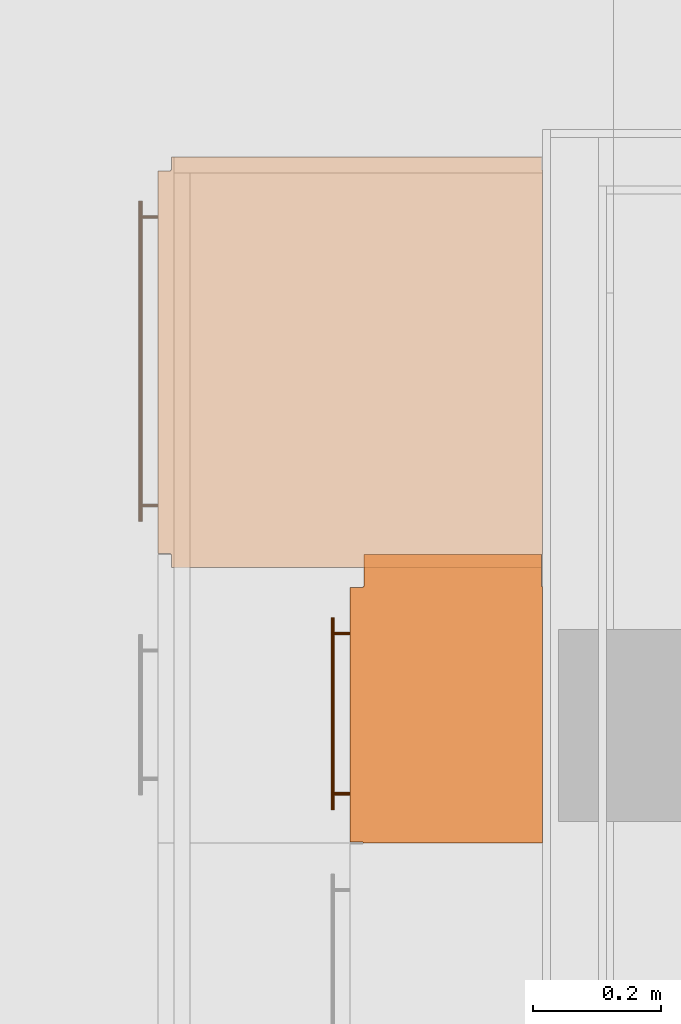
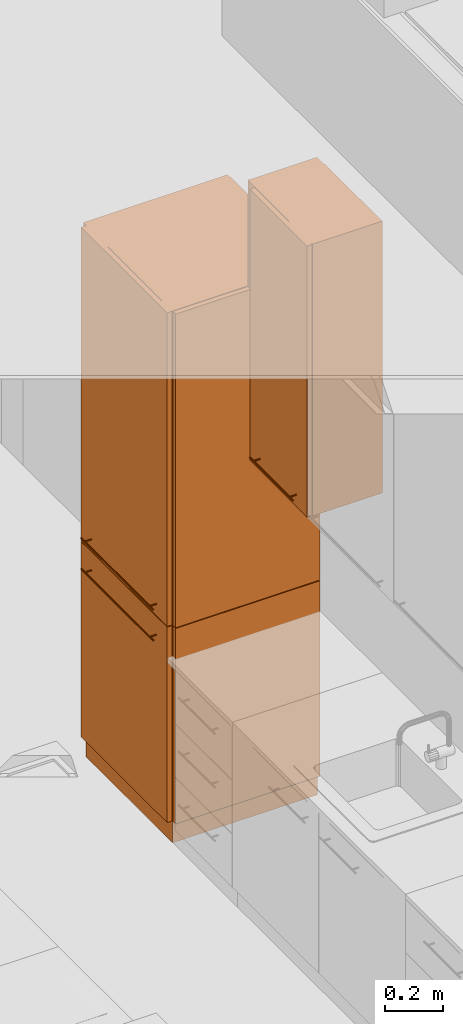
# One storey, part 149 of 167: 2 proxies.
"""IFC2X3 building model written with IfcOpenShell, lengths in millimetres."""

import ifcopenshell
import ifcopenshell.guid

model = None  # the IFC model being written
_history = None  # IfcOwnerHistory: only IFC2X3 demands one
_inside = {}  # id of a spatial element -> (the spatial element, [elements in it])
_under = {}  # id of a project, library or spatial element -> (it, [spatial elements below it])
_declared = {}  # id of a project -> (the project, [libraries it declares])
_typed = {}  # id of a type object -> (the type object, [elements of that type])
_made_of = {}  # id of a material, layer set ... -> (it, [elements and type objects made of it])


def new_model(schema):
    """Start an empty IFC model of exactly this schema.

    Asked for "IFC4X3", IfcOpenShell would pick the latest addendum, in which some entities
    have other attributes; the version numbers below select the first issue.
    IFC2X3 requires an IfcOwnerHistory on every rooted entity: one is made here for all.
    """
    global model, _history
    if schema == "IFC4X3":
        model = ifcopenshell.file(schema_version=(4, 3, 0, 0))
    else:
        model = ifcopenshell.file(schema=schema)
    _inside.clear()
    _under.clear()
    _declared.clear()
    _typed.clear()
    _made_of.clear()
    _history = None
    if model.schema == "IFC2X3":
        org = make("IfcOrganization", Name="unknown")
        user = make(
            "IfcPersonAndOrganization",
            ThePerson=make("IfcPerson", FamilyName="unknown"),
            TheOrganization=org,
        )
        app = make(
            "IfcApplication",
            ApplicationDeveloper=org,
            Version="unknown",
            ApplicationFullName="unknown",
            ApplicationIdentifier="unknown",
        )
        _history = make(
            "IfcOwnerHistory",
            OwningUser=user,
            OwningApplication=app,
            ChangeAction="ADDED",
            CreationDate=0,
        )
    return model


def make(cls, **values):
    """One entity of the class cls with the attributes given. An attribute that is None is left unset."""
    return model.create_entity(
        cls, **{name: value for name, value in values.items() if value is not None}
    )


def entity(cls, *values):
    """Any entity or typed value of the class cls, its attributes in the order of the schema. None: left unset."""
    e = model.create_entity(cls)
    for i, value in enumerate(values):
        if value is not None:
            e[i] = value
    return e


def rooted(cls, **values):
    """An entity with a GlobalId (a new one), such as an element, a storey or a relation."""
    return make(cls, GlobalId=ifcopenshell.guid.new(), OwnerHistory=_history, **values)


def si_unit(unit_type, name, prefix=None):
    """IfcSIUnit, for example si_unit("LENGTHUNIT", "METRE", prefix="MILLI")."""
    return make("IfcSIUnit", UnitType=unit_type, Prefix=prefix, Name=name)


def converted_unit(unit_type, name, factor, base, dimensions=None, offset=None):
    """IfcConversionBasedUnit, such as the inch: factor (a typed value) times the base unit."""
    return make(
        "IfcConversionBasedUnit"
        if offset is None
        else "IfcConversionBasedUnitWithOffset",
        ConversionOffset=offset,
        Dimensions=None
        if dimensions is None
        else entity("IfcDimensionalExponents", *dimensions),
        UnitType=unit_type,
        Name=name,
        ConversionFactor=make(
            "IfcMeasureWithUnit", ValueComponent=factor, UnitComponent=base
        ),
    )


def derived_unit(unit_type, elements):
    """IfcDerivedUnit: a product of units, each with its exponent."""
    return make(
        "IfcDerivedUnit",
        Elements=[
            make("IfcDerivedUnitElement", Unit=unit, Exponent=power)
            for unit, power in elements
        ],
        UnitType=unit_type,
    )


def money_unit(currency):
    """IfcMonetaryUnit."""
    return make("IfcMonetaryUnit", Currency=currency)


def assignment(units):
    """IfcUnitAssignment: the units of a project."""
    return None if units is None else make("IfcUnitAssignment", Units=units)


def point(xyz):
    """IfcCartesianPoint."""
    return None if xyz is None else make("IfcCartesianPoint", Coordinates=xyz)


def direction(xyz):
    """IfcDirection."""
    return None if xyz is None else make("IfcDirection", DirectionRatios=xyz)


def frame(location, z_axis=None, x_axis=None):
    """IfcAxis2Placement3D, a coordinate frame: its origin and axes. An axis left out is left unset."""
    return make(
        "IfcAxis2Placement3D",
        Location=point(location),
        Axis=direction(z_axis),
        RefDirection=direction(x_axis),
    )


def origin_with_axes():
    """The frame at (0, 0, 0) with the z axis (0, 0, 1) and the x axis (1, 0, 0) written out."""
    return frame((0.0, 0.0, 0.0), z_axis=(0.0, 0.0, 1.0), x_axis=(1.0, 0.0, 0.0))


def place(relative_to, where):
    """IfcLocalPlacement: puts the frame where relative to a parent placement (None: the world)."""
    return make(
        "IfcLocalPlacement", PlacementRelTo=relative_to, RelativePlacement=where
    )


def context(
    kind, dimensions, precision=None, world=None, true_north=None, identifier=None
):
    """IfcGeometricRepresentationContext, for example the 3D "Model" context."""
    return make(
        "IfcGeometricRepresentationContext",
        ContextIdentifier=identifier,
        ContextType=kind,
        CoordinateSpaceDimension=dimensions,
        Precision=precision,
        WorldCoordinateSystem=world,
        TrueNorth=true_north,
    )


def subcontext(parent, identifier, kind, view, scale=None):
    """IfcGeometricRepresentationSubContext, for example "Body" below "Model"."""
    return make(
        "IfcGeometricRepresentationSubContext",
        ContextIdentifier=identifier,
        ContextType=kind,
        ParentContext=parent,
        TargetScale=scale,
        TargetView=view,
    )


def project(units=None, contexts=None):
    """IfcProject with its units and contexts."""
    return rooted(
        "IfcProject",
        Name="project",
        RepresentationContexts=contexts,
        UnitsInContext=assignment(units),
    )


def spatial(cls, under=None, at=None, **own):
    """A site, building, storey or space (cls), placed at a placement, below another one or the project."""
    s = rooted(cls, ObjectPlacement=at, **own)
    if under is not None:
        _under.setdefault(under.id(), (under, []))[1].append(s)
    return s


def faces_of(points, faces, orient=None, outer=None):
    """IfcFace entities. A face is a list of loops; a loop is a list of indices into points, from 0.

    orient and outer hold one flag for each loop. By default every Orientation is true, the
    first loop of a face is its IfcFaceOuterBound and the others are IfcFaceBound.
    """
    made = []
    for i, loops in enumerate(faces):
        bounds = []
        for j, loop in enumerate(loops):
            is_outer = j == 0 if outer is None else outer[i][j]
            bounds.append(
                make(
                    "IfcFaceOuterBound" if is_outer else "IfcFaceBound",
                    Bound=make("IfcPolyLoop", Polygon=[points[k] for k in loop]),
                    Orientation=True if orient is None else orient[i][j],
                )
            )
        made.append(make("IfcFace", Bounds=bounds))
    return made


def open_shell(faces, orient=None, outer=None):
    """The faces of one IfcOpenShell. surface_model builds it on its shared points."""
    return ("IfcOpenShell", faces, orient, outer)


def faceted_brep(points, faces, orient=None, outer=None, voids=None):
    """IfcFacetedBrep: a solid bounded by flat faces; with voids (closed shells), ...WithVoids."""
    shared = [point(p) for p in points]
    hull = make("IfcClosedShell", CfsFaces=faces_of(shared, faces, orient, outer))
    if voids is None:
        return make("IfcFacetedBrep", Outer=hull)
    return make(
        "IfcFacetedBrepWithVoids",
        Outer=hull,
        Voids=[
            make(cls, CfsFaces=faces_of(shared, fs, o, b)) for cls, fs, o, b in voids
        ],
    )


def surface_model(cls, points, shells):
    """IfcFaceBasedSurfaceModel or IfcShellBasedSurfaceModel (cls): surfaces that need not close."""
    shared = [point(p) for p in points]
    made = [make(c, CfsFaces=faces_of(shared, fs, o, b)) for c, fs, o, b in shells]
    if cls == "IfcFaceBasedSurfaceModel":
        return make(cls, FbsmFaces=made)
    return make(cls, SbsmBoundary=made)


def shape(context_of_items, identifier, shape_type, items):
    """IfcShapeRepresentation: the items that make up one representation, for example the "Body"."""
    return make(
        "IfcShapeRepresentation",
        ContextOfItems=context_of_items,
        RepresentationIdentifier=identifier,
        RepresentationType=shape_type,
        Items=items,
    )


def made_of(thing, what):
    """Note that an element or type object is made of a material, layer set ...; save() writes the relation."""
    if what is not None:
        _made_of.setdefault(what.id(), (what, []))[1].append(thing)
    return thing


def type_object(cls, material=None, **own):
    """A type object (cls), such as IfcWallType, which elements share."""
    return made_of(rooted(cls, **own), material)


def element(
    cls,
    number,
    at=None,
    inside=None,
    cuts=None,
    type_object=None,
    material=None,
    context=None,
    identifier="Body",
    shape_type=None,
    held_by="IfcProductDefinitionShape",
    body=None,
    shapes=None,
    **own,
):
    """One element of the class cls, such as IfcWall. Its Tag is "e" and its number.

    at: its placement. inside: the storey or other place that contains it. cuts: it is an
    opening in that element (IfcRelVoidsElement). A single representation is given by context,
    identifier, shape_type and body (its items); several are given by shapes. held_by: the class
    of the entity that holds the representations. save() writes the other relations.
    """
    e = rooted(cls, Tag="e%d" % number, ObjectPlacement=at, **own)
    if body is not None:
        shapes = [shape(context, identifier, shape_type, body)]
    if shapes is not None:
        e.Representation = make(held_by, Representations=shapes)
    if inside is not None:
        _inside.setdefault(inside.id(), (inside, []))[1].append(e)
    if cuts is not None:
        rooted(
            "IfcRelVoidsElement", RelatingBuildingElement=cuts, RelatedOpeningElement=e
        )
    if type_object is not None:
        _typed.setdefault(type_object.id(), (type_object, []))[1].append(e)
    return made_of(e, material)


def aggregate(whole, parts):
    """IfcRelAggregates: a whole, such as a stair, and the parts it consists of."""
    return rooted("IfcRelAggregates", RelatingObject=whole, RelatedObjects=parts)


def save(model, path):
    """Write the relations noted so far, then the file.

    IfcRelAggregates (storeys below a building ...), IfcRelContainedInSpatialStructure (elements
    in a storey), IfcRelDefinesByType, IfcRelAssociatesMaterial and IfcRelDeclares: one each for
    every whole, place, type object, material and project.
    """
    for whole, parts in _under.values():
        aggregate(whole, parts)
    for where, things in _inside.values():
        rooted(
            "IfcRelContainedInSpatialStructure",
            RelatedElements=things,
            RelatingStructure=where,
        )
    for kind, things in _typed.values():
        rooted("IfcRelDefinesByType", RelatedObjects=things, RelatingType=kind)
    for what, things in _made_of.values():
        rooted("IfcRelAssociatesMaterial", RelatedObjects=things, RelatingMaterial=what)
    for by, libraries in _declared.values():
        rooted("IfcRelDeclares", RelatingContext=by, RelatedDefinitions=libraries)
    model.write(path)


model = new_model("IFC2X3")

# Units and contexts
model_context = context("Model", 3, precision=0.01, world=origin_with_axes(), true_north=direction((0.0, 1.0)))
plan_context = context("Plan", 3, precision=0.01, world=origin_with_axes(), true_north=direction((0.0, 1.0)))
body_context = subcontext(model_context, "Body", "Model", "MODEL_VIEW")
ifc_project = project(units=[si_unit("LENGTHUNIT", "METRE", prefix="MILLI"), si_unit("AREAUNIT", "SQUARE_METRE"), si_unit("VOLUMEUNIT", "CUBIC_METRE"), converted_unit("PLANEANGLEUNIT", "DEGREE", entity("IfcPlaneAngleMeasure", 0.0174532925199), si_unit("PLANEANGLEUNIT", "RADIAN"), dimensions=[0, 0, 0, 0, 0, 0, 0]), si_unit("SOLIDANGLEUNIT", "STERADIAN"), money_unit("EUR"), converted_unit("TIMEUNIT", "Year", entity("IfcTimeMeasure", 31556926.0), si_unit("TIMEUNIT", "SECOND"), dimensions=[0, 0, 1, 0, 0, 0, 0]), si_unit("MASSUNIT", "GRAM", prefix="KILO"), si_unit("THERMODYNAMICTEMPERATUREUNIT", "DEGREE_CELSIUS"), si_unit("LUMINOUSINTENSITYUNIT", "LUMEN"), si_unit("ENERGYUNIT", "JOULE", prefix="MEGA"), derived_unit("THERMALCONDUCTANCEUNIT", [(si_unit("POWERUNIT", "WATT"), 1), (si_unit("LENGTHUNIT", "METRE"), -1), (si_unit("THERMODYNAMICTEMPERATUREUNIT", "KELVIN"), -1)]), derived_unit("SPECIFICHEATCAPACITYUNIT", [(si_unit("ENERGYUNIT", "JOULE"), 1), (si_unit("MASSUNIT", "GRAM", prefix="KILO"), -1), (si_unit("THERMODYNAMICTEMPERATUREUNIT", "KELVIN"), -1)]), derived_unit("MASSDENSITYUNIT", [(si_unit("MASSUNIT", "GRAM", prefix="KILO"), 1), (si_unit("VOLUMEUNIT", "CUBIC_METRE"), -1)])], contexts=[model_context, plan_context])

# Site, building, storey
site_placement = place(None, origin_with_axes())
site = spatial("IfcSite", under=ifc_project, at=site_placement, Name="Site", CompositionType="ELEMENT")
building_placement = place(site_placement, origin_with_axes())
building = spatial("IfcBuilding", under=site, at=building_placement, Name="Naam gebouw", CompositionType="ELEMENT")
storey_placement = place(building_placement, origin_with_axes())
storey = spatial("IfcBuildingStorey", under=building, at=storey_placement, Name="Begane grond", CompositionType="ELEMENT", Elevation=0.0)

# Proxies
building_element_proxy_type_1 = type_object("IfcBuildingElementProxyType", Name="Kast hoog 1D 24", PredefinedType="NOTDEFINED")
proxy_1_placement = place(storey_placement, frame((27875.0, 29686.7322881, 0.0), z_axis=(0.0, 0.0, 1.0), x_axis=(0.0, -1.0, 0.0)))
element("IfcBuildingElementProxy", 1, at=proxy_1_placement, inside=storey, type_object=building_element_proxy_type_1, Name="__Object-x", context=body_context, shape_type="SurfaceModel", body=[
    faceted_brep([(40.0, 20.0, 910.0), (600.0, 20.0, 910.0), (600.0, 20.0, 930.0), (40.0, 20.0, 930.0), (40.0, 580.0, 910.0), (600.0, 580.0, 910.0), (600.0, 580.0, 930.0), (40.0, 580.0, 930.0)], [[[0, 1, 2, 3]], [[0, 4, 5, 1]], [[1, 5, 6, 2]], [[3, 2, 6, 7]], [[4, 0, 3, 7]], [[5, 4, 7, 6]]]),
    faceted_brep([(20.0, 20.0, 0.0), (620.0, 20.0, 0.0), (620.0, 20.0, 90.0), (20.0, 20.0, 90.0), (20.0, 600.0, 0.0), (620.0, 600.0, 0.0), (620.0, 600.0, 90.0), (20.0, 600.0, 90.0)], [[[0, 1, 2, 3]], [[0, 4, 5, 1]], [[1, 5, 6, 2]], [[3, 2, 6, 7]], [[4, 0, 3, 7]], [[5, 4, 7, 6]]]),
    faceted_brep([(20.0, 20.0, 2230.0), (40.0, 20.0, 2230.0), (40.0, 20.0, 2250.0), (20.0, 20.0, 2250.0), (20.0, 600.0, 2230.0), (40.0, 600.0, 2230.0), (600.0, 600.0, 2230.0), (620.0, 600.0, 2230.0), (620.0, 20.0, 2230.0), (600.0, 20.0, 2230.0), (600.0, 20.0, 2250.0), (620.0, 20.0, 2250.0), (620.0, 600.0, 2250.0), (600.0, 600.0, 2250.0), (40.0, 600.0, 2250.0), (20.0, 600.0, 2250.0)], [[[0, 1, 2, 3]], [[0, 4, 5, 6, 7, 8, 9, 1]], [[1, 9, 10, 2]], [[3, 2, 10, 11, 12, 13, 14, 15]], [[4, 0, 3, 15]], [[5, 4, 15, 14]], [[6, 5, 14, 13]], [[7, 6, 13, 12]], [[8, 7, 12, 11]], [[9, 8, 11, 10]]]),
    faceted_brep([(20.0, 20.0, 90.0), (40.0, 20.0, 90.0), (40.0, 20.0, 110.0), (20.0, 20.0, 110.0), (20.0, 600.0, 90.0), (40.0, 600.0, 90.0), (600.0, 600.0, 90.0), (620.0, 600.0, 90.0), (620.0, 20.0, 90.0), (600.0, 20.0, 90.0), (600.0, 20.0, 110.0), (620.0, 20.0, 110.0), (620.0, 600.0, 110.0), (600.0, 600.0, 110.0), (40.0, 600.0, 110.0), (20.0, 600.0, 110.0)], [[[0, 1, 2, 3]], [[0, 4, 5, 6, 7, 8, 9, 1]], [[1, 9, 10, 2]], [[3, 2, 10, 11, 12, 13, 14, 15]], [[4, 0, 3, 15]], [[5, 4, 15, 14]], [[6, 5, 14, 13]], [[7, 6, 13, 12]], [[8, 7, 12, 11]], [[9, 8, 11, 10]]]),
    faceted_brep([(20.0, 20.0, 110.0), (40.0, 20.0, 110.0), (40.0, 20.0, 2230.0), (20.0, 20.0, 2230.0), (20.0, 600.0, 110.0), (620.0, 600.0, 110.0), (620.0, 20.0, 110.0), (600.0, 20.0, 110.0), (600.0, 580.0, 110.0), (40.0, 580.0, 110.0), (40.0, 580.0, 2230.0), (600.0, 580.0, 2230.0), (600.0, 20.0, 2230.0), (620.0, 20.0, 2230.0), (620.0, 600.0, 2230.0), (20.0, 600.0, 2230.0)], [[[0, 1, 2, 3]], [[0, 4, 5, 6, 7, 8, 9, 1]], [[1, 9, 10, 2]], [[3, 2, 10, 11, 12, 13, 14, 15]], [[4, 0, 3, 15]], [[5, 4, 15, 14]], [[6, 5, 14, 13]], [[7, 6, 13, 12]], [[8, 7, 12, 11]], [[9, 8, 11, 10]]]),
    faceted_brep([(600.0, 20.0, 353.333333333), (600.0, 580.0, 353.333333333), (600.0, 580.0, 373.333333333), (600.0, 20.0, 373.333333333), (40.0, 20.0, 353.333333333), (40.0, 580.0, 353.333333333), (40.0, 580.0, 373.333333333), (40.0, 20.0, 373.333333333)], [[[0, 1, 2, 3]], [[0, 4, 5, 1]], [[1, 5, 6, 2]], [[3, 2, 6, 7]], [[4, 0, 3, 7]], [[5, 4, 7, 6]]]),
    faceted_brep([(600.0, 20.0, 636.666666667), (600.0, 580.0, 636.666666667), (600.0, 580.0, 656.666666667), (600.0, 20.0, 656.666666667), (40.0, 20.0, 636.666666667), (40.0, 580.0, 636.666666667), (40.0, 580.0, 656.666666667), (40.0, 20.0, 656.666666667)], [[[0, 1, 2, 3]], [[0, 4, 5, 1]], [[1, 5, 6, 2]], [[3, 2, 6, 7]], [[4, 0, 3, 7]], [[5, 4, 7, 6]]]),
    faceted_brep([(21.5, 20.0, 91.5), (618.5, 20.0, 91.5), (618.5, 0.0, 91.5), (21.5, 0.0, 91.5), (21.5, 20.0, 918.5), (618.5, 20.0, 918.5), (618.5, 0.0, 918.5), (21.5, 0.0, 918.5)], [[[0, 1, 2, 3]], [[0, 4, 5, 1]], [[1, 5, 6, 2]], [[3, 2, 6, 7]], [[4, 0, 3, 7]], [[5, 4, 7, 6]]]),
    faceted_brep([(68.5, -28.1480502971, 838.728361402), (68.5, -29.1213203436, 839.378679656), (68.5, -29.7716385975, 840.351949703), (68.5, -30.0, 841.5), (68.5, -29.7716385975, 842.648050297), (68.5, -29.1213203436, 843.621320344), (68.5, -28.1480502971, 844.271638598), (68.5, -27.0, 844.5), (68.5, -25.8519497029, 844.271638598), (68.5, -24.8786796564, 843.621320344), (68.5, -24.2283614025, 842.648050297), (68.5, -24.0, 841.5), (68.5, -24.2283614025, 840.351949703), (68.5, -24.8786796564, 839.378679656), (68.5, -25.8519497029, 838.728361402), (68.5, -27.0, 838.5), (568.5, -28.1480502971, 838.728361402), (568.5, -29.1213203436, 839.378679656), (568.5, -29.7716385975, 840.351949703), (568.5, -30.0, 841.5), (568.5, -29.7716385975, 842.648050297), (568.5, -29.1213203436, 843.621320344), (568.5, -28.1480502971, 844.271638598), (568.5, -27.0, 844.5), (568.5, -25.8519497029, 844.271638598), (568.5, -24.8786796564, 843.621320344), (568.5, -24.2283614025, 842.648050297), (568.5, -24.0, 841.5), (568.5, -24.2283614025, 840.351949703), (568.5, -24.8786796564, 839.378679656), (568.5, -25.8519497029, 838.728361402), (568.5, -27.0, 838.5)], [[[0, 1, 2, 3, 4, 5, 6, 7, 8, 9, 10, 11, 12, 13, 14, 15]], [[1, 0, 16, 17]], [[2, 1, 17, 18]], [[3, 2, 18, 19]], [[4, 3, 19, 20]], [[5, 4, 20, 21]], [[6, 5, 21, 22]], [[7, 6, 22, 23]], [[8, 7, 23, 24]], [[9, 8, 24, 25]], [[10, 9, 25, 26]], [[11, 10, 26, 27]], [[12, 11, 27, 28]], [[13, 12, 28, 29]], [[14, 13, 29, 30]], [[15, 14, 30, 31]], [[0, 15, 31, 16]], [[16, 31, 30, 29, 28, 27, 26, 25, 24, 23, 22, 21, 20, 19, 18, 17]]]),
    surface_model("IfcShellBasedSurfaceModel", [(91.1903011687, -24.156637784, 840.543291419), (91.0, -24.0, 841.5), (91.0, 0.0, 841.5), (91.1903011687, 0.0, 840.543291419), (91.1903011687, -24.156637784, 842.456708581), (91.1903011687, 0.0, 842.456708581), (91.732233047, 0.0, 843.267766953), (92.5432914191, 0.0, 843.809698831), (93.5, 0.0, 844.0), (94.4567085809, 0.0, 843.809698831), (95.267766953, 0.0, 843.267766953), (95.8096988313, 0.0, 842.456708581), (96.0, 0.0, 841.5), (95.8096988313, 0.0, 840.543291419), (95.267766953, 0.0, 839.732233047), (94.4567085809, 0.0, 839.190301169), (93.5, 0.0, 839.0), (92.5432914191, 0.0, 839.190301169), (91.732233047, 0.0, 839.732233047), (91.732233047, -24.5761600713, 839.732233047), (91.732233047, -24.5761600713, 843.267766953), (92.5432914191, -25.0855049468, 843.809698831), (93.5, -25.3416876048, 844.0), (94.4567085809, -25.0855049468, 843.809698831), (95.267766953, -24.5761600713, 843.267766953), (95.8096988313, -24.156637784, 842.456708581), (96.0, -24.0, 841.5), (95.8096988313, -24.156637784, 840.543291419), (95.267766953, -24.5761600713, 839.732233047), (94.4567085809, -25.0855049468, 839.190301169), (93.5, -25.3416876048, 839.0), (92.5432914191, -25.0855049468, 839.190301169)], [open_shell([[[0, 1, 2, 3]], [[1, 4, 5, 2]], [[3, 2, 5, 6, 7, 8, 9, 10, 11, 12, 13, 14, 15, 16, 17, 18]], [[19, 0, 3, 18]], [[4, 20, 6, 5]], [[20, 21, 7, 6]], [[21, 22, 8, 7]], [[22, 23, 9, 8]], [[23, 24, 10, 9]], [[24, 25, 11, 10]], [[25, 26, 12, 11]], [[26, 27, 13, 12]], [[27, 28, 14, 13]], [[28, 29, 15, 14]], [[29, 30, 16, 15]], [[30, 31, 17, 16]], [[31, 19, 18, 17]]])]),
    surface_model("IfcShellBasedSurfaceModel", [(541.190301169, -24.156637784, 840.543291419), (541.0, -24.0, 841.5), (541.0, 0.0, 841.5), (541.190301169, 0.0, 840.543291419), (541.190301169, -24.156637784, 842.456708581), (541.190301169, 0.0, 842.456708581), (541.732233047, 0.0, 843.267766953), (542.543291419, 0.0, 843.809698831), (543.5, 0.0, 844.0), (544.456708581, 0.0, 843.809698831), (545.267766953, 0.0, 843.267766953), (545.809698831, 0.0, 842.456708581), (546.0, 0.0, 841.5), (545.809698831, 0.0, 840.543291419), (545.267766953, 0.0, 839.732233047), (544.456708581, 0.0, 839.190301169), (543.5, 0.0, 839.0), (542.543291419, 0.0, 839.190301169), (541.732233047, 0.0, 839.732233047), (541.732233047, -24.5761600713, 839.732233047), (541.732233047, -24.5761600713, 843.267766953), (542.543291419, -25.0855049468, 843.809698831), (543.5, -25.3416876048, 844.0), (544.456708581, -25.0855049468, 843.809698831), (545.267766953, -24.5761600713, 843.267766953), (545.809698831, -24.156637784, 842.456708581), (546.0, -24.0, 841.5), (545.809698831, -24.156637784, 840.543291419), (545.267766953, -24.5761600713, 839.732233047), (544.456708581, -25.0855049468, 839.190301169), (543.5, -25.3416876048, 839.0), (542.543291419, -25.0855049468, 839.190301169)], [open_shell([[[0, 1, 2, 3]], [[1, 4, 5, 2]], [[3, 2, 5, 6, 7, 8, 9, 10, 11, 12, 13, 14, 15, 16, 17, 18]], [[19, 0, 3, 18]], [[4, 20, 6, 5]], [[20, 21, 7, 6]], [[21, 22, 8, 7]], [[22, 23, 9, 8]], [[23, 24, 10, 9]], [[24, 25, 11, 10]], [[25, 26, 12, 11]], [[26, 27, 13, 12]], [[27, 28, 14, 13]], [[28, 29, 15, 14]], [[29, 30, 16, 15]], [[30, 31, 17, 16]], [[31, 19, 18, 17]]])]),
    faceted_brep([(21.5, 20.0, 921.5), (618.5, 20.0, 921.5), (618.5, 0.0, 921.5), (21.5, 0.0, 921.5), (21.5, 20.0, 2248.5), (618.5, 20.0, 2248.5), (618.5, 0.0, 2248.5), (21.5, 0.0, 2248.5)], [[[0, 1, 2, 3]], [[0, 4, 5, 1]], [[1, 5, 6, 2]], [[3, 2, 6, 7]], [[4, 0, 3, 7]], [[5, 4, 7, 6]]]),
    faceted_brep([(68.5, -28.1480502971, 968.728361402), (68.5, -29.1213203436, 969.378679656), (68.5, -29.7716385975, 970.351949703), (68.5, -30.0, 971.5), (68.5, -29.7716385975, 972.648050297), (68.5, -29.1213203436, 973.621320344), (68.5, -28.1480502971, 974.271638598), (68.5, -27.0, 974.5), (68.5, -25.8519497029, 974.271638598), (68.5, -24.8786796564, 973.621320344), (68.5, -24.2283614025, 972.648050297), (68.5, -24.0, 971.5), (68.5, -24.2283614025, 970.351949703), (68.5, -24.8786796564, 969.378679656), (68.5, -25.8519497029, 968.728361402), (68.5, -27.0, 968.5), (568.5, -28.1480502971, 968.728361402), (568.5, -29.1213203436, 969.378679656), (568.5, -29.7716385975, 970.351949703), (568.5, -30.0, 971.5), (568.5, -29.7716385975, 972.648050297), (568.5, -29.1213203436, 973.621320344), (568.5, -28.1480502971, 974.271638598), (568.5, -27.0, 974.5), (568.5, -25.8519497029, 974.271638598), (568.5, -24.8786796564, 973.621320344), (568.5, -24.2283614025, 972.648050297), (568.5, -24.0, 971.5), (568.5, -24.2283614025, 970.351949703), (568.5, -24.8786796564, 969.378679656), (568.5, -25.8519497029, 968.728361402), (568.5, -27.0, 968.5)], [[[0, 1, 2, 3, 4, 5, 6, 7, 8, 9, 10, 11, 12, 13, 14, 15]], [[1, 0, 16, 17]], [[2, 1, 17, 18]], [[3, 2, 18, 19]], [[4, 3, 19, 20]], [[5, 4, 20, 21]], [[6, 5, 21, 22]], [[7, 6, 22, 23]], [[8, 7, 23, 24]], [[9, 8, 24, 25]], [[10, 9, 25, 26]], [[11, 10, 26, 27]], [[12, 11, 27, 28]], [[13, 12, 28, 29]], [[14, 13, 29, 30]], [[15, 14, 30, 31]], [[0, 15, 31, 16]], [[16, 31, 30, 29, 28, 27, 26, 25, 24, 23, 22, 21, 20, 19, 18, 17]]]),
    surface_model("IfcShellBasedSurfaceModel", [(91.1903011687, -24.156637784, 970.543291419), (91.0, -24.0, 971.5), (91.0, 0.0, 971.5), (91.1903011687, 0.0, 970.543291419), (91.1903011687, -24.156637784, 972.456708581), (91.1903011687, 0.0, 972.456708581), (91.732233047, 0.0, 973.267766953), (92.5432914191, 0.0, 973.809698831), (93.5, 0.0, 974.0), (94.4567085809, 0.0, 973.809698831), (95.267766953, 0.0, 973.267766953), (95.8096988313, 0.0, 972.456708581), (96.0, 0.0, 971.5), (95.8096988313, 0.0, 970.543291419), (95.267766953, 0.0, 969.732233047), (94.4567085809, 0.0, 969.190301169), (93.5, 0.0, 969.0), (92.5432914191, 0.0, 969.190301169), (91.732233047, 0.0, 969.732233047), (91.732233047, -24.5761600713, 969.732233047), (91.732233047, -24.5761600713, 973.267766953), (92.5432914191, -25.0855049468, 973.809698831), (93.5, -25.3416876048, 974.0), (94.4567085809, -25.0855049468, 973.809698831), (95.267766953, -24.5761600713, 973.267766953), (95.8096988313, -24.156637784, 972.456708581), (96.0, -24.0, 971.5), (95.8096988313, -24.156637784, 970.543291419), (95.267766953, -24.5761600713, 969.732233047), (94.4567085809, -25.0855049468, 969.190301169), (93.5, -25.3416876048, 969.0), (92.5432914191, -25.0855049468, 969.190301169)], [open_shell([[[0, 1, 2, 3]], [[1, 4, 5, 2]], [[3, 2, 5, 6, 7, 8, 9, 10, 11, 12, 13, 14, 15, 16, 17, 18]], [[19, 0, 3, 18]], [[4, 20, 6, 5]], [[20, 21, 7, 6]], [[21, 22, 8, 7]], [[22, 23, 9, 8]], [[23, 24, 10, 9]], [[24, 25, 11, 10]], [[25, 26, 12, 11]], [[26, 27, 13, 12]], [[27, 28, 14, 13]], [[28, 29, 15, 14]], [[29, 30, 16, 15]], [[30, 31, 17, 16]], [[31, 19, 18, 17]]])]),
    surface_model("IfcShellBasedSurfaceModel", [(541.190301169, -24.156637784, 970.543291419), (541.0, -24.0, 971.5), (541.0, 0.0, 971.5), (541.190301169, 0.0, 970.543291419), (541.190301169, -24.156637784, 972.456708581), (541.190301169, 0.0, 972.456708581), (541.732233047, 0.0, 973.267766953), (542.543291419, 0.0, 973.809698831), (543.5, 0.0, 974.0), (544.456708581, 0.0, 973.809698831), (545.267766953, 0.0, 973.267766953), (545.809698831, 0.0, 972.456708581), (546.0, 0.0, 971.5), (545.809698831, 0.0, 970.543291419), (545.267766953, 0.0, 969.732233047), (544.456708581, 0.0, 969.190301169), (543.5, 0.0, 969.0), (542.543291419, 0.0, 969.190301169), (541.732233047, 0.0, 969.732233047), (541.732233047, -24.5761600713, 969.732233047), (541.732233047, -24.5761600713, 973.267766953), (542.543291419, -25.0855049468, 973.809698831), (543.5, -25.3416876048, 974.0), (544.456708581, -25.0855049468, 973.809698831), (545.267766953, -24.5761600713, 973.267766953), (545.809698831, -24.156637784, 972.456708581), (546.0, -24.0, 971.5), (545.809698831, -24.156637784, 970.543291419), (545.267766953, -24.5761600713, 969.732233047), (544.456708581, -25.0855049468, 969.190301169), (543.5, -25.3416876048, 969.0), (542.543291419, -25.0855049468, 969.190301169)], [open_shell([[[0, 1, 2, 3]], [[1, 4, 5, 2]], [[3, 2, 5, 6, 7, 8, 9, 10, 11, 12, 13, 14, 15, 16, 17, 18]], [[19, 0, 3, 18]], [[4, 20, 6, 5]], [[20, 21, 7, 6]], [[21, 22, 8, 7]], [[22, 23, 9, 8]], [[23, 24, 10, 9]], [[24, 25, 11, 10]], [[25, 26, 12, 11]], [[26, 27, 13, 12]], [[27, 28, 14, 13]], [[28, 29, 15, 14]], [[29, 30, 16, 15]], [[30, 31, 17, 16]], [[31, 19, 18, 17]]])]),
    faceted_brep([(20.0, 598.5, 91.5), (20.0, 21.5, 91.5), (0.0, 21.5, 91.5), (0.0, 598.5, 91.5), (20.0, 598.5, 918.5), (20.0, 21.5, 918.5), (0.0, 21.5, 918.5), (0.0, 598.5, 918.5)], [[[0, 1, 2, 3]], [[0, 4, 5, 1]], [[1, 5, 6, 2]], [[3, 2, 6, 7]], [[4, 0, 3, 7]], [[5, 4, 7, 6]]]),
    faceted_brep([(20.0, 598.5, 921.5), (20.0, 21.5, 921.5), (0.0, 21.5, 921.5), (0.0, 598.5, 921.5), (20.0, 598.5, 2248.5), (20.0, 21.5, 2248.5), (0.0, 21.5, 2248.5), (0.0, 598.5, 2248.5)], [[[0, 1, 2, 3]], [[0, 4, 5, 1]], [[1, 5, 6, 2]], [[3, 2, 6, 7]], [[4, 0, 3, 7]], [[5, 4, 7, 6]]]),
    faceted_brep([(620.0, 21.5, 91.5), (620.0, 598.5, 91.5), (640.0, 598.5, 91.5), (640.0, 21.5, 91.5), (620.0, 21.5, 918.5), (620.0, 598.5, 918.5), (640.0, 598.5, 918.5), (640.0, 21.5, 918.5)], [[[0, 1, 2, 3]], [[0, 4, 5, 1]], [[1, 5, 6, 2]], [[3, 2, 6, 7]], [[4, 0, 3, 7]], [[5, 4, 7, 6]]]),
    faceted_brep([(620.0, 21.5, 921.5), (620.0, 598.5, 921.5), (640.0, 598.5, 921.5), (640.0, 21.5, 921.5), (620.0, 21.5, 2248.5), (620.0, 598.5, 2248.5), (640.0, 598.5, 2248.5), (640.0, 21.5, 2248.5)], [[[0, 1, 2, 3]], [[0, 4, 5, 1]], [[1, 5, 6, 2]], [[3, 2, 6, 7]], [[4, 0, 3, 7]], [[5, 4, 7, 6]]]),
])
building_element_proxy_type_2 = type_object("IfcBuildingElementProxyType", Name="Kast wand 1D 24", PredefinedType="NOTDEFINED")
proxy_2_placement = place(storey_placement, frame((28175.0, 29066.7322881, 50.0), z_axis=(0.0, 0.0, 1.0), x_axis=(0.0, -1.0, 0.0)))
element("IfcBuildingElementProxy", 2, at=proxy_2_placement, inside=storey, type_object=building_element_proxy_type_2, Name="__Object-x", context=body_context, shape_type="SurfaceModel", body=[
    faceted_brep([(50.0, 20.0, 2630.0), (70.0, 20.0, 2630.0), (70.0, 20.0, 2650.0), (50.0, 20.0, 2650.0), (50.0, 300.0, 2630.0), (70.0, 300.0, 2630.0), (430.0, 300.0, 2630.0), (450.0, 300.0, 2630.0), (450.0, 20.0, 2630.0), (430.0, 20.0, 2630.0), (430.0, 20.0, 2650.0), (450.0, 20.0, 2650.0), (450.0, 300.0, 2650.0), (430.0, 300.0, 2650.0), (70.0, 300.0, 2650.0), (50.0, 300.0, 2650.0)], [[[0, 1, 2, 3]], [[0, 4, 5, 6, 7, 8, 9, 1]], [[1, 9, 10, 2]], [[3, 2, 10, 11, 12, 13, 14, 15]], [[4, 0, 3, 15]], [[5, 4, 15, 14]], [[6, 5, 14, 13]], [[7, 6, 13, 12]], [[8, 7, 12, 11]], [[9, 8, 11, 10]]]),
    faceted_brep([(50.0, 20.0, 1500.0), (70.0, 20.0, 1500.0), (70.0, 20.0, 1520.0), (50.0, 20.0, 1520.0), (50.0, 300.0, 1500.0), (70.0, 300.0, 1500.0), (430.0, 300.0, 1500.0), (450.0, 300.0, 1500.0), (450.0, 20.0, 1500.0), (430.0, 20.0, 1500.0), (430.0, 20.0, 1520.0), (450.0, 20.0, 1520.0), (450.0, 300.0, 1520.0), (430.0, 300.0, 1520.0), (70.0, 300.0, 1520.0), (50.0, 300.0, 1520.0)], [[[0, 1, 2, 3]], [[0, 4, 5, 6, 7, 8, 9, 1]], [[1, 9, 10, 2]], [[3, 2, 10, 11, 12, 13, 14, 15]], [[4, 0, 3, 15]], [[5, 4, 15, 14]], [[6, 5, 14, 13]], [[7, 6, 13, 12]], [[8, 7, 12, 11]], [[9, 8, 11, 10]]]),
    faceted_brep([(50.0, 20.0, 1520.0), (70.0, 20.0, 1520.0), (70.0, 20.0, 2630.0), (50.0, 20.0, 2630.0), (50.0, 300.0, 1520.0), (450.0, 300.0, 1520.0), (450.0, 20.0, 1520.0), (430.0, 20.0, 1520.0), (430.0, 280.0, 1520.0), (70.0, 280.0, 1520.0), (70.0, 280.0, 2630.0), (430.0, 280.0, 2630.0), (430.0, 20.0, 2630.0), (450.0, 20.0, 2630.0), (450.0, 300.0, 2630.0), (50.0, 300.0, 2630.0)], [[[0, 1, 2, 3]], [[0, 4, 5, 6, 7, 8, 9, 1]], [[1, 9, 10, 2]], [[3, 2, 10, 11, 12, 13, 14, 15]], [[4, 0, 3, 15]], [[5, 4, 15, 14]], [[6, 5, 14, 13]], [[7, 6, 13, 12]], [[8, 7, 12, 11]], [[9, 8, 11, 10]]]),
    faceted_brep([(430.0, 20.0, 1863.33333333), (430.0, 280.0, 1863.33333333), (430.0, 280.0, 1883.33333333), (430.0, 20.0, 1883.33333333), (70.0, 20.0, 1863.33333333), (70.0, 280.0, 1863.33333333), (70.0, 280.0, 1883.33333333), (70.0, 20.0, 1883.33333333)], [[[0, 1, 2, 3]], [[0, 4, 5, 1]], [[1, 5, 6, 2]], [[3, 2, 6, 7]], [[4, 0, 3, 7]], [[5, 4, 7, 6]]]),
    faceted_brep([(430.0, 20.0, 2246.66666667), (430.0, 280.0, 2246.66666667), (430.0, 280.0, 2266.66666667), (430.0, 20.0, 2266.66666667), (70.0, 20.0, 2246.66666667), (70.0, 280.0, 2246.66666667), (70.0, 280.0, 2266.66666667), (70.0, 20.0, 2266.66666667)], [[[0, 1, 2, 3]], [[0, 4, 5, 1]], [[1, 5, 6, 2]], [[3, 2, 6, 7]], [[4, 0, 3, 7]], [[5, 4, 7, 6]]]),
    faceted_brep([(51.5, 20.0, 1501.5), (448.5, 20.0, 1501.5), (448.5, 0.0, 1501.5), (51.5, 0.0, 1501.5), (51.5, 20.0, 2648.5), (448.5, 20.0, 2648.5), (448.5, 0.0, 2648.5), (51.5, 0.0, 2648.5)], [[[0, 1, 2, 3]], [[0, 4, 5, 1]], [[1, 5, 6, 2]], [[3, 2, 6, 7]], [[4, 0, 3, 7]], [[5, 4, 7, 6]]]),
    faceted_brep([(98.5, -28.1480502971, 1548.7283614), (98.5, -29.1213203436, 1549.37867966), (98.5, -29.7716385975, 1550.3519497), (98.5, -30.0, 1551.5), (98.5, -29.7716385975, 1552.6480503), (98.5, -29.1213203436, 1553.62132034), (98.5, -28.1480502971, 1554.2716386), (98.5, -27.0, 1554.5), (98.5, -25.8519497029, 1554.2716386), (98.5, -24.8786796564, 1553.62132034), (98.5, -24.2283614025, 1552.6480503), (98.5, -24.0, 1551.5), (98.5, -24.2283614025, 1550.3519497), (98.5, -24.8786796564, 1549.37867966), (98.5, -25.8519497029, 1548.7283614), (98.5, -27.0, 1548.5), (398.5, -28.1480502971, 1548.7283614), (398.5, -29.1213203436, 1549.37867966), (398.5, -29.7716385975, 1550.3519497), (398.5, -30.0, 1551.5), (398.5, -29.7716385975, 1552.6480503), (398.5, -29.1213203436, 1553.62132034), (398.5, -28.1480502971, 1554.2716386), (398.5, -27.0, 1554.5), (398.5, -25.8519497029, 1554.2716386), (398.5, -24.8786796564, 1553.62132034), (398.5, -24.2283614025, 1552.6480503), (398.5, -24.0, 1551.5), (398.5, -24.2283614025, 1550.3519497), (398.5, -24.8786796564, 1549.37867966), (398.5, -25.8519497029, 1548.7283614), (398.5, -27.0, 1548.5)], [[[0, 1, 2, 3, 4, 5, 6, 7, 8, 9, 10, 11, 12, 13, 14, 15]], [[1, 0, 16, 17]], [[2, 1, 17, 18]], [[3, 2, 18, 19]], [[4, 3, 19, 20]], [[5, 4, 20, 21]], [[6, 5, 21, 22]], [[7, 6, 22, 23]], [[8, 7, 23, 24]], [[9, 8, 24, 25]], [[10, 9, 25, 26]], [[11, 10, 26, 27]], [[12, 11, 27, 28]], [[13, 12, 28, 29]], [[14, 13, 29, 30]], [[15, 14, 30, 31]], [[0, 15, 31, 16]], [[16, 31, 30, 29, 28, 27, 26, 25, 24, 23, 22, 21, 20, 19, 18, 17]]]),
    surface_model("IfcShellBasedSurfaceModel", [(121.190301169, -24.156637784, 1550.54329142), (121.0, -24.0, 1551.5), (121.0, 0.0, 1551.5), (121.190301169, 0.0, 1550.54329142), (121.190301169, -24.156637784, 1552.45670858), (121.190301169, 0.0, 1552.45670858), (121.732233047, 0.0, 1553.26776695), (122.543291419, 0.0, 1553.80969883), (123.5, 0.0, 1554.0), (124.456708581, 0.0, 1553.80969883), (125.267766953, 0.0, 1553.26776695), (125.809698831, 0.0, 1552.45670858), (126.0, 0.0, 1551.5), (125.809698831, 0.0, 1550.54329142), (125.267766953, 0.0, 1549.73223305), (124.456708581, 0.0, 1549.19030117), (123.5, 0.0, 1549.0), (122.543291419, 0.0, 1549.19030117), (121.732233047, 0.0, 1549.73223305), (121.732233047, -24.5761600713, 1549.73223305), (121.732233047, -24.5761600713, 1553.26776695), (122.543291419, -25.0855049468, 1553.80969883), (123.5, -25.3416876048, 1554.0), (124.456708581, -25.0855049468, 1553.80969883), (125.267766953, -24.5761600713, 1553.26776695), (125.809698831, -24.156637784, 1552.45670858), (126.0, -24.0, 1551.5), (125.809698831, -24.156637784, 1550.54329142), (125.267766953, -24.5761600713, 1549.73223305), (124.456708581, -25.0855049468, 1549.19030117), (123.5, -25.3416876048, 1549.0), (122.543291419, -25.0855049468, 1549.19030117)], [open_shell([[[0, 1, 2, 3]], [[1, 4, 5, 2]], [[3, 2, 5, 6, 7, 8, 9, 10, 11, 12, 13, 14, 15, 16, 17, 18]], [[19, 0, 3, 18]], [[4, 20, 6, 5]], [[20, 21, 7, 6]], [[21, 22, 8, 7]], [[22, 23, 9, 8]], [[23, 24, 10, 9]], [[24, 25, 11, 10]], [[25, 26, 12, 11]], [[26, 27, 13, 12]], [[27, 28, 14, 13]], [[28, 29, 15, 14]], [[29, 30, 16, 15]], [[30, 31, 17, 16]], [[31, 19, 18, 17]]])]),
    surface_model("IfcShellBasedSurfaceModel", [(371.190301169, -24.156637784, 1550.54329142), (371.0, -24.0, 1551.5), (371.0, 0.0, 1551.5), (371.190301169, 0.0, 1550.54329142), (371.190301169, -24.156637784, 1552.45670858), (371.190301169, 0.0, 1552.45670858), (371.732233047, 0.0, 1553.26776695), (372.543291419, 0.0, 1553.80969883), (373.5, 0.0, 1554.0), (374.456708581, 0.0, 1553.80969883), (375.267766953, 0.0, 1553.26776695), (375.809698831, 0.0, 1552.45670858), (376.0, 0.0, 1551.5), (375.809698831, 0.0, 1550.54329142), (375.267766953, 0.0, 1549.73223305), (374.456708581, 0.0, 1549.19030117), (373.5, 0.0, 1549.0), (372.543291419, 0.0, 1549.19030117), (371.732233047, 0.0, 1549.73223305), (371.732233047, -24.5761600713, 1549.73223305), (371.732233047, -24.5761600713, 1553.26776695), (372.543291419, -25.0855049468, 1553.80969883), (373.5, -25.3416876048, 1554.0), (374.456708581, -25.0855049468, 1553.80969883), (375.267766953, -24.5761600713, 1553.26776695), (375.809698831, -24.156637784, 1552.45670858), (376.0, -24.0, 1551.5), (375.809698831, -24.156637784, 1550.54329142), (375.267766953, -24.5761600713, 1549.73223305), (374.456708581, -25.0855049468, 1549.19030117), (373.5, -25.3416876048, 1549.0), (372.543291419, -25.0855049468, 1549.19030117)], [open_shell([[[0, 1, 2, 3]], [[1, 4, 5, 2]], [[3, 2, 5, 6, 7, 8, 9, 10, 11, 12, 13, 14, 15, 16, 17, 18]], [[19, 0, 3, 18]], [[4, 20, 6, 5]], [[20, 21, 7, 6]], [[21, 22, 8, 7]], [[22, 23, 9, 8]], [[23, 24, 10, 9]], [[24, 25, 11, 10]], [[25, 26, 12, 11]], [[26, 27, 13, 12]], [[27, 28, 14, 13]], [[28, 29, 15, 14]], [[29, 30, 16, 15]], [[30, 31, 17, 16]], [[31, 19, 18, 17]]])]),
    faceted_brep([(50.0, 298.5, 1501.5), (50.0, 21.5, 1501.5), (0.0, 21.5, 1501.5), (0.0, 298.5, 1501.5), (50.0, 298.5, 2648.5), (50.0, 21.5, 2648.5), (0.0, 21.5, 2648.5), (0.0, 298.5, 2648.5)], [[[0, 1, 2, 3]], [[0, 4, 5, 1]], [[1, 5, 6, 2]], [[3, 2, 6, 7]], [[4, 0, 3, 7]], [[5, 4, 7, 6]]]),
])

save(model, "model.ifc")
